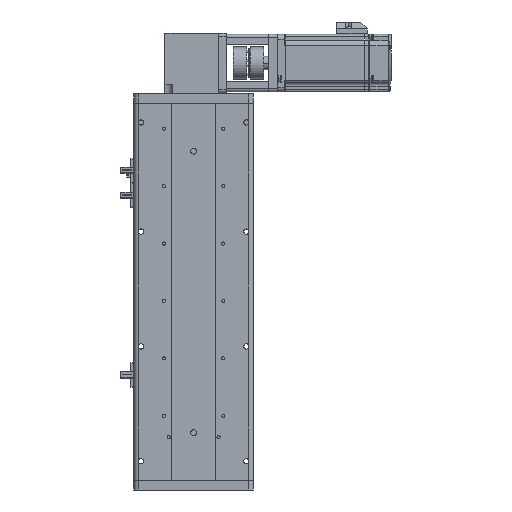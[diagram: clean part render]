
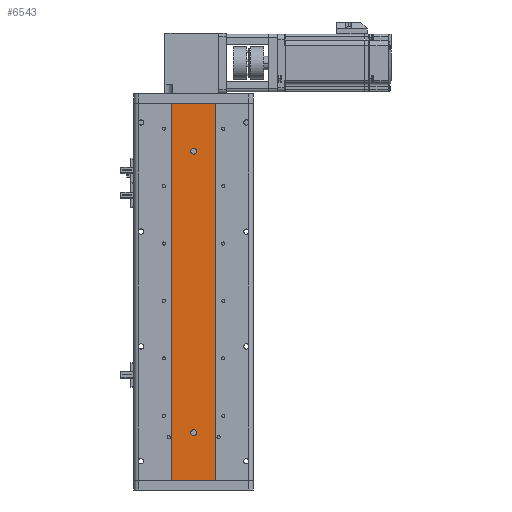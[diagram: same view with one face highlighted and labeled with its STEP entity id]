
A CAD part, front view. The second image highlights one B-rep face of the part: STEP entity #6543.
In plain terms, the highlighted planar face has unit normal (0, -1, 0).
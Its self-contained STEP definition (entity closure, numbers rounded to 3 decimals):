
#1109 = CIRCLE ( 'NONE', #23860, 3. ) ;
#1725 = DIRECTION ( 'NONE',  ( 0., -1., 0. ) ) ;
#2034 = CIRCLE ( 'NONE', #36560, 3. ) ;
#2572 = CARTESIAN_POINT ( 'NONE',  ( 23., 1., 197.001 ) ) ;
#2653 = EDGE_CURVE ( 'NONE', #44547, #34138, #19469, .T. ) ;
#3837 = AXIS2_PLACEMENT_3D ( 'NONE', #2572, #52118, #25262 ) ;
#3908 = CARTESIAN_POINT ( 'NONE',  ( 0., 1., -147. ) ) ;
#4271 = CARTESIAN_POINT ( 'NONE',  ( 23., 1., -197. ) ) ;
#6543 = ADVANCED_FACE ( 'NONE', ( #47780, #13428, #26737 ), #43132, .F. ) ;
#7567 = VECTOR ( 'NONE', #11630, 1000. ) ;
#8091 = VERTEX_POINT ( 'NONE', #38555 ) ;
#8388 = DIRECTION ( 'NONE',  ( 0., 0., -1. ) ) ;
#8730 = DIRECTION ( 'NONE',  ( 0., -1., 0. ) ) ;
#11191 = LINE ( 'NONE', #47743, #23080 ) ;
#11630 = DIRECTION ( 'NONE',  ( 0., 0., -1. ) ) ;
#11950 = ORIENTED_EDGE ( 'NONE', *, *, #37933, .F. ) ;
#12998 = VECTOR ( 'NONE', #34032, 1000. ) ;
#13111 = CIRCLE ( 'NONE', #27472, 3. ) ;
#13249 = AXIS2_PLACEMENT_3D ( 'NONE', #28532, #1725, #33045 ) ;
#13428 = FACE_BOUND ( 'NONE', #57244, .T. ) ;
#19469 = LINE ( 'NONE', #38499, #7567 ) ;
#21030 = CARTESIAN_POINT ( 'NONE',  ( 0., 1., -147. ) ) ;
#21077 = DIRECTION ( 'NONE',  ( 0., 0., -1. ) ) ;
#21499 = EDGE_CURVE ( 'NONE', #22859, #36946, #1109, .T. ) ;
#21872 = CARTESIAN_POINT ( 'NONE',  ( 23., 1., -197. ) ) ;
#22729 = ORIENTED_EDGE ( 'NONE', *, *, #2653, .F. ) ;
#22859 = VERTEX_POINT ( 'NONE', #45553 ) ;
#23080 = VECTOR ( 'NONE', #21077, 1000. ) ;
#23860 = AXIS2_PLACEMENT_3D ( 'NONE', #35608, #8730, #40099 ) ;
#23945 = CARTESIAN_POINT ( 'NONE',  ( -23., 1., -197. ) ) ;
#24680 = ORIENTED_EDGE ( 'NONE', *, *, #42669, .F. ) ;
#24980 = CARTESIAN_POINT ( 'NONE',  ( 23., 1., 197. ) ) ;
#25170 = EDGE_CURVE ( 'NONE', #57905, #54383, #11191, .T. ) ;
#25262 = DIRECTION ( 'NONE',  ( 0., 0., 1. ) ) ;
#25537 = DIRECTION ( 'NONE',  ( 0., 0., -1. ) ) ;
#26297 = LINE ( 'NONE', #24980, #12998 ) ;
#26737 = FACE_OUTER_BOUND ( 'NONE', #50882, .T. ) ;
#26771 = EDGE_CURVE ( 'NONE', #54383, #34138, #31897, .T. ) ;
#27472 = AXIS2_PLACEMENT_3D ( 'NONE', #21030, #52393, #25537 ) ;
#27532 = ORIENTED_EDGE ( 'NONE', *, *, #37612, .F. ) ;
#27756 = EDGE_LOOP ( 'NONE', ( #47713, #11950 ) ) ;
#28251 = ORIENTED_EDGE ( 'NONE', *, *, #31397, .F. ) ;
#28532 = CARTESIAN_POINT ( 'NONE',  ( 0., 1., 147. ) ) ;
#31397 = EDGE_CURVE ( 'NONE', #34778, #8091, #13111, .T. ) ;
#31897 = LINE ( 'NONE', #4271, #55731 ) ;
#32107 = CIRCLE ( 'NONE', #13249, 3. ) ;
#33045 = DIRECTION ( 'NONE',  ( 0., 0., -1. ) ) ;
#34015 = CARTESIAN_POINT ( 'NONE',  ( 23., 1., 197. ) ) ;
#34032 = DIRECTION ( 'NONE',  ( 1., 0., 0. ) ) ;
#34138 = VERTEX_POINT ( 'NONE', #21872 ) ;
#34778 = VERTEX_POINT ( 'NONE', #37731 ) ;
#35265 = DIRECTION ( 'NONE',  ( 0., -1., 0. ) ) ;
#35608 = CARTESIAN_POINT ( 'NONE',  ( 0., 1., 147. ) ) ;
#35633 = DIRECTION ( 'NONE',  ( 1., 0., 0. ) ) ;
#36560 = AXIS2_PLACEMENT_3D ( 'NONE', #3908, #35265, #8388 ) ;
#36946 = VERTEX_POINT ( 'NONE', #38260 ) ;
#37612 = EDGE_CURVE ( 'NONE', #8091, #34778, #2034, .T. ) ;
#37731 = CARTESIAN_POINT ( 'NONE',  ( 0., 1., -150. ) ) ;
#37933 = EDGE_CURVE ( 'NONE', #36946, #22859, #32107, .T. ) ;
#38260 = CARTESIAN_POINT ( 'NONE',  ( 0., 1., 150. ) ) ;
#38499 = CARTESIAN_POINT ( 'NONE',  ( 23., 1., 197.001 ) ) ;
#38555 = CARTESIAN_POINT ( 'NONE',  ( 0., 1., -144. ) ) ;
#40099 = DIRECTION ( 'NONE',  ( 0., 0., -1. ) ) ;
#42669 = EDGE_CURVE ( 'NONE', #57905, #44547, #26297, .T. ) ;
#43132 = PLANE ( 'NONE',  #3837 ) ;
#44547 = VERTEX_POINT ( 'NONE', #34015 ) ;
#45553 = CARTESIAN_POINT ( 'NONE',  ( 0., 1., 144. ) ) ;
#47646 = ORIENTED_EDGE ( 'NONE', *, *, #26771, .T. ) ;
#47713 = ORIENTED_EDGE ( 'NONE', *, *, #21499, .F. ) ;
#47743 = CARTESIAN_POINT ( 'NONE',  ( -23., 1., 197.001 ) ) ;
#47780 = FACE_BOUND ( 'NONE', #27756, .T. ) ;
#50444 = ORIENTED_EDGE ( 'NONE', *, *, #25170, .T. ) ;
#50882 = EDGE_LOOP ( 'NONE', ( #50444, #47646, #22729, #24680 ) ) ;
#52118 = DIRECTION ( 'NONE',  ( 0., 1., 0. ) ) ;
#52393 = DIRECTION ( 'NONE',  ( 0., -1., 0. ) ) ;
#54383 = VERTEX_POINT ( 'NONE', #23945 ) ;
#55453 = CARTESIAN_POINT ( 'NONE',  ( -23., 1., 197. ) ) ;
#55731 = VECTOR ( 'NONE', #35633, 1000. ) ;
#57244 = EDGE_LOOP ( 'NONE', ( #28251, #27532 ) ) ;
#57905 = VERTEX_POINT ( 'NONE', #55453 ) ;
